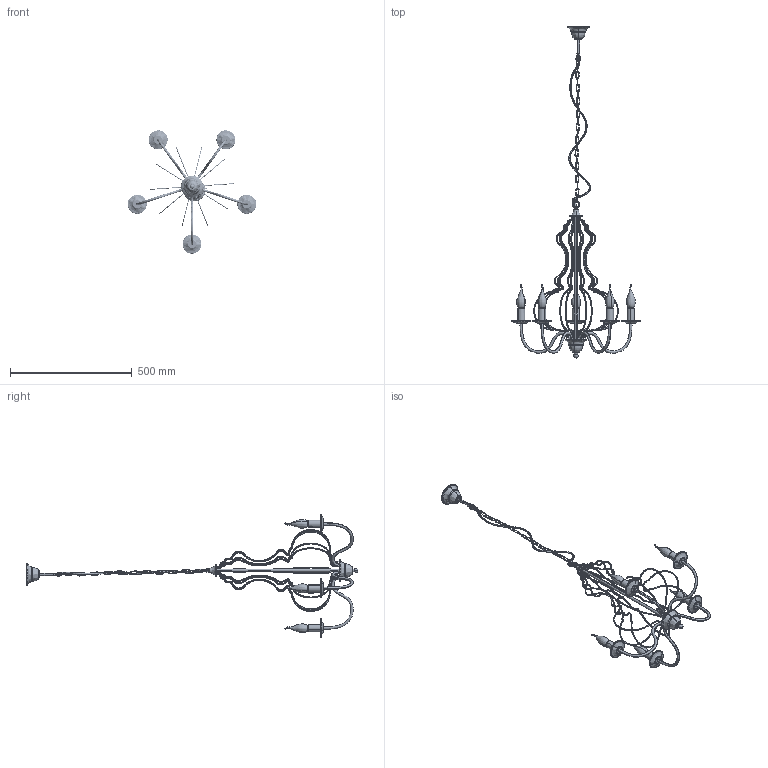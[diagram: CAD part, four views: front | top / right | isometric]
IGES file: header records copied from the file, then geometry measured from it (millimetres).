
Start section: SolidWorks IGES file using analytic representation for surfaces
Global section: file name: Z:\Modele 3D_WWW\_KOLEKCJE_WWW\MARGARET-6330\MARGARET-6330.IGS; native system: SolidWorks 2021; preprocessor: SolidWorks 2021; author: gabriela.tworek; date: 210729.071423; units: millimetre
Bounding box: 528.54 x 1364 x 506.5 mm (x, y, z)
Surface area: 429184 mm2 (no closed solid volume)
Topology: 0 solids, 0 shells, 1006 faces, 12935 edges, 12934 vertices
Faces by surface type: bspline 627, revolution 379
